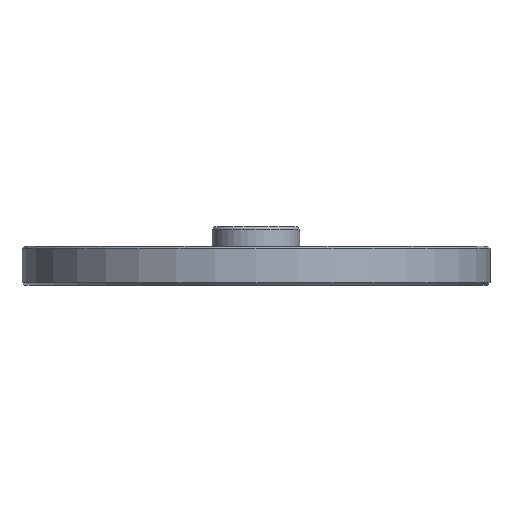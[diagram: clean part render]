
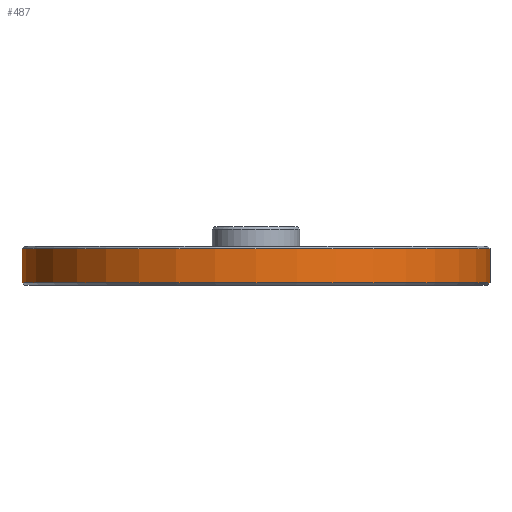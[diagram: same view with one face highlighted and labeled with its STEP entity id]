
A CAD part, front view. The second image highlights one B-rep face of the part: STEP entity #487.
In plain terms, the highlighted cylindrical face has radius 24 mm (diameter 48 mm), a full revolution.
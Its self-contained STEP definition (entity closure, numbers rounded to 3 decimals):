
#29 = CARTESIAN_POINT ( 'NONE',  ( 0., 0., 0.25 ) ) ;
#60 = AXIS2_PLACEMENT_3D ( 'NONE', #1342, #1216, #731 ) ;
#72 = CARTESIAN_POINT ( 'NONE',  ( 24., 0., 0.25 ) ) ;
#303 = DIRECTION ( 'NONE',  ( 0., 0., -1. ) ) ;
#359 = EDGE_CURVE ( 'NONE', #432, #432, #722, .T. ) ;
#369 = EDGE_LOOP ( 'NONE', ( #870 ) ) ;
#378 = DIRECTION ( 'NONE',  ( 0., 0., 1. ) ) ;
#432 = VERTEX_POINT ( 'NONE', #72 ) ;
#472 = FACE_OUTER_BOUND ( 'NONE', #369, .T. ) ;
#487 = ADVANCED_FACE ( 'NONE', ( #724, #472 ), #1239, .T. ) ;
#621 = EDGE_CURVE ( 'NONE', #1195, #1195, #1424, .T. ) ;
#628 = DIRECTION ( 'NONE',  ( 1., 0., 0. ) ) ;
#722 = CIRCLE ( 'NONE', #1189, 24. ) ;
#724 = FACE_OUTER_BOUND ( 'NONE', #1501, .T. ) ;
#731 = DIRECTION ( 'NONE',  ( -1., 0., 0. ) ) ;
#870 = ORIENTED_EDGE ( 'NONE', *, *, #621, .T. ) ;
#1101 = AXIS2_PLACEMENT_3D ( 'NONE', #1280, #303, #628 ) ;
#1189 = AXIS2_PLACEMENT_3D ( 'NONE', #29, #378, #1380 ) ;
#1195 = VERTEX_POINT ( 'NONE', #1440 ) ;
#1216 = DIRECTION ( 'NONE',  ( 0., 0., -1. ) ) ;
#1239 = CYLINDRICAL_SURFACE ( 'NONE', #60, 24. ) ;
#1280 = CARTESIAN_POINT ( 'NONE',  ( 0., 0., 3.75 ) ) ;
#1327 = ORIENTED_EDGE ( 'NONE', *, *, #359, .T. ) ;
#1342 = CARTESIAN_POINT ( 'NONE',  ( 0., 0., 4. ) ) ;
#1380 = DIRECTION ( 'NONE',  ( 1., 0., 0. ) ) ;
#1424 = CIRCLE ( 'NONE', #1101, 24. ) ;
#1440 = CARTESIAN_POINT ( 'NONE',  ( 24., 0., 3.75 ) ) ;
#1501 = EDGE_LOOP ( 'NONE', ( #1327 ) ) ;
